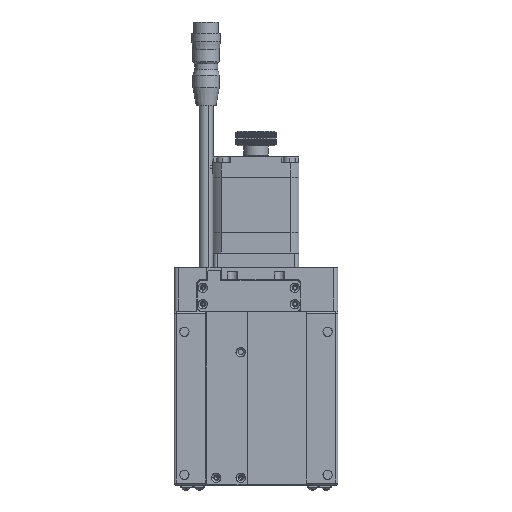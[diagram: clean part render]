
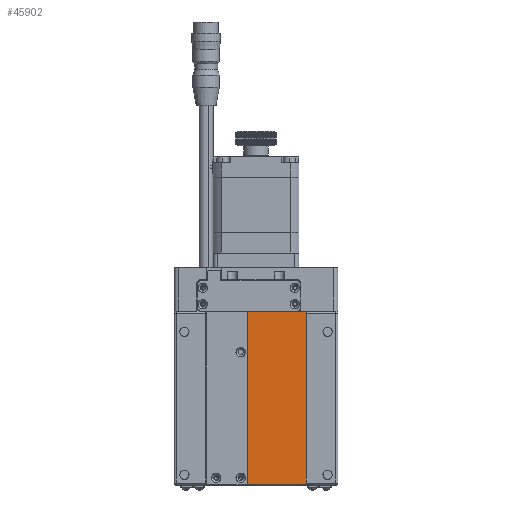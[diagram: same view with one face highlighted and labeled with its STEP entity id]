
A CAD part, front view. The second image highlights one B-rep face of the part: STEP entity #45902.
In plain terms, the highlighted planar face has unit normal (0, -1, 0).
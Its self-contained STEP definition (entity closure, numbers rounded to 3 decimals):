
#132 = EDGE_CURVE ( 'NONE', #11860, #7801, #14044, .T. ) ;
#4280 = EDGE_CURVE ( 'NONE', #11860, #22508, #47067, .T. ) ;
#6497 = ORIENTED_EDGE ( 'NONE', *, *, #4280, .F. ) ;
#6963 = FACE_OUTER_BOUND ( 'NONE', #13755, .T. ) ;
#7498 = DIRECTION ( 'NONE',  ( 0., 1., 0. ) ) ;
#7801 = VERTEX_POINT ( 'NONE', #56127 ) ;
#11180 = EDGE_CURVE ( 'NONE', #49258, #22508, #26285, .T. ) ;
#11765 = DIRECTION ( 'NONE',  ( 0., 0., -1. ) ) ;
#11860 = VERTEX_POINT ( 'NONE', #52003 ) ;
#13442 = CARTESIAN_POINT ( 'NONE',  ( -4.1, 0.3, 0.286 ) ) ;
#13755 = EDGE_LOOP ( 'NONE', ( #23262, #54989, #6497, #49303 ) ) ;
#13898 = EDGE_CURVE ( 'NONE', #49258, #7801, #29334, .T. ) ;
#13919 = VECTOR ( 'NONE', #30823, 1000. ) ;
#14044 = LINE ( 'NONE', #31413, #48286 ) ;
#15234 = CARTESIAN_POINT ( 'NONE',  ( 24.5, 0.3, 0.286 ) ) ;
#15250 = DIRECTION ( 'NONE',  ( 1., 0., 0. ) ) ;
#15437 = CARTESIAN_POINT ( 'NONE',  ( -4.1, 0.3, 0. ) ) ;
#15813 = CARTESIAN_POINT ( 'NONE',  ( 24.5, 0.3, 85. ) ) ;
#16000 = DIRECTION ( 'NONE',  ( 0., 0., 1. ) ) ;
#17027 = CARTESIAN_POINT ( 'NONE',  ( -4.1, 0.3, 0.286 ) ) ;
#22508 = VERTEX_POINT ( 'NONE', #15234 ) ;
#23262 = ORIENTED_EDGE ( 'NONE', *, *, #13898, .F. ) ;
#25894 = VECTOR ( 'NONE', #11765, 1000. ) ;
#26285 = LINE ( 'NONE', #13442, #13919 ) ;
#29334 = LINE ( 'NONE', #15437, #45891 ) ;
#30823 = DIRECTION ( 'NONE',  ( 1., 0., 0. ) ) ;
#31399 = AXIS2_PLACEMENT_3D ( 'NONE', #15813, #7498, #15250 ) ;
#31413 = CARTESIAN_POINT ( 'NONE',  ( 24.5, 0.3, 84.714 ) ) ;
#33992 = CARTESIAN_POINT ( 'NONE',  ( 24.5, 0.3, 85. ) ) ;
#41715 = PLANE ( 'NONE',  #31399 ) ;
#45891 = VECTOR ( 'NONE', #16000, 1000. ) ;
#45902 = ADVANCED_FACE ( 'NONE', ( #6963 ), #41715, .F. ) ;
#47067 = LINE ( 'NONE', #33992, #25894 ) ;
#48286 = VECTOR ( 'NONE', #48777, 1000. ) ;
#48777 = DIRECTION ( 'NONE',  ( -1., 0., 0. ) ) ;
#49258 = VERTEX_POINT ( 'NONE', #17027 ) ;
#49303 = ORIENTED_EDGE ( 'NONE', *, *, #132, .T. ) ;
#52003 = CARTESIAN_POINT ( 'NONE',  ( 24.5, 0.3, 84.714 ) ) ;
#54989 = ORIENTED_EDGE ( 'NONE', *, *, #11180, .T. ) ;
#56127 = CARTESIAN_POINT ( 'NONE',  ( -4.1, 0.3, 84.714 ) ) ;
